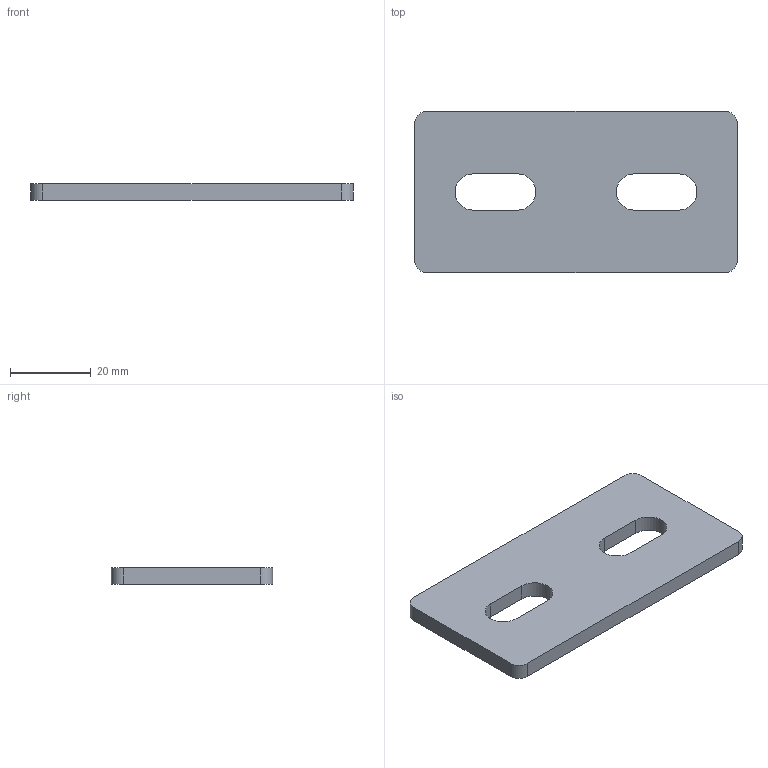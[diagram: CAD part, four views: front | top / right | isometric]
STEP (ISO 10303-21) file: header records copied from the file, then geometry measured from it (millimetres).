
FILE_DESCRIPTION (( 'STEP AP203' ), '1' );
FILE_NAME ('084.106.174.STEP', '2013-01-23T12:49:18', ( 'Alusic' ), ( 'Alusic' ), 'SwSTEP 2.0', 'SolidWorks 2011', '' );
FILE_SCHEMA (( 'CONFIG_CONTROL_DESIGN' ));
Length unit declared in the file: millimetre
Products named in the file (1): 084.106.174
Bounding box: 80 x 40 x 4 mm (x, y, z)
Volume: 11468.2 mm3; surface area: 7075.7 mm2
Topology: 1 solids, 1 shells, 20 faces, 54 edges, 36 vertices
Faces by surface type: cylinder 10, plane 10
Entity records: 723 total; most frequent: DIRECTION 116, CARTESIAN_POINT 111, ORIENTED_EDGE 108, EDGE_CURVE 54, AXIS2_PLACEMENT_3D 41, VERTEX_POINT 36, VECTOR 34, LINE 34
